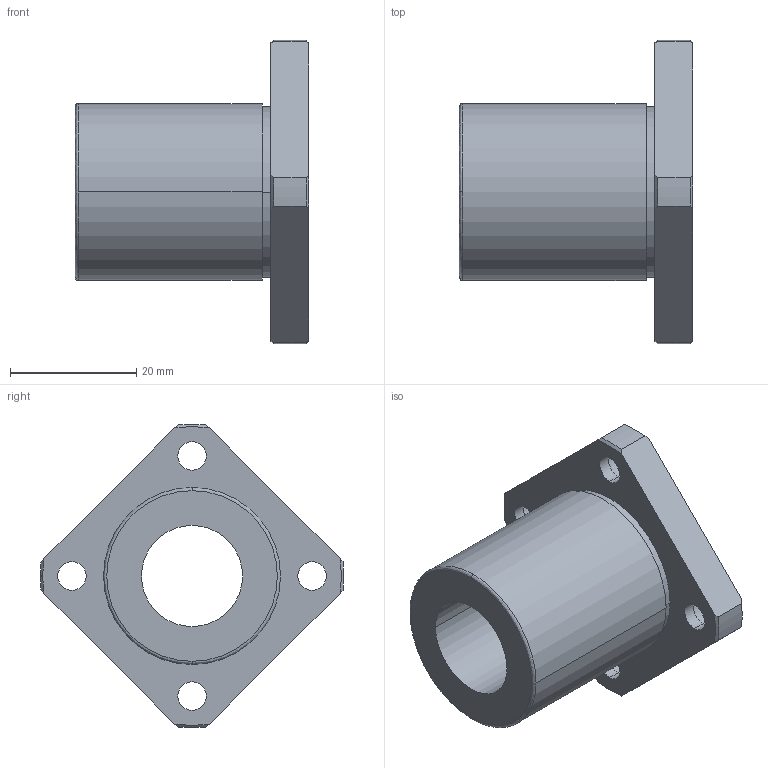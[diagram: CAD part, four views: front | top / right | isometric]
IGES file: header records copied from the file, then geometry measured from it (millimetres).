
Start section: 3D InterOp IGES (Version 21 0 1), Spatial Corp. Copyright (c) 1999-2007.
Global section: file name: NF-16TVUU.igs; native system: Spatial Corp.; preprocessor: 3D InterOp GENERIC/IGES 3.0; author: Noname; organization: Noname; date: 20220308.154213; units: millimetre
Bounding box: 37 x 47.99 x 47.98 mm (x, y, z)
Surface area: 8147.7 mm2 (no closed solid volume)
Topology: 0 solids, 0 shells, 51 faces, 256 edges, 256 vertices
Faces by surface type: revolution 39, extrusion 12
